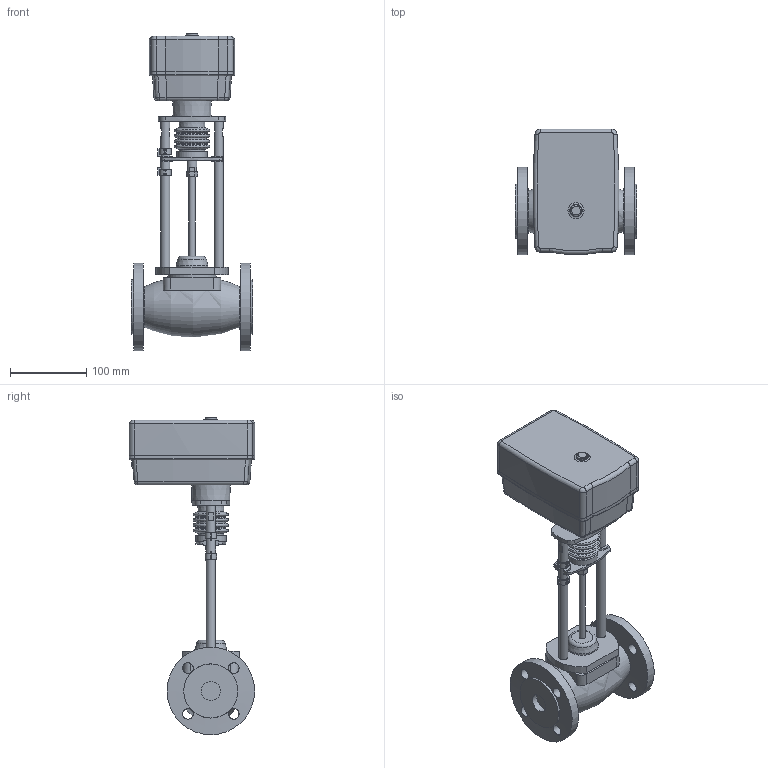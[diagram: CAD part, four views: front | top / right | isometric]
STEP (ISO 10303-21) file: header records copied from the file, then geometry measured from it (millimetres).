
FILE_DESCRIPTION(/* description */ ('Unknown'),/* implementation_level */ '2;1');
FILE_NAME(/* name */ 'Клапан TRV-P-025-101',/* time_stamp */ '2021-12-06T17:04:02+03:00',/* author */ ('Unknown'),/* organization */ ('Unknown'),/* preprocessor_version */ 'ST-DEVELOPER v16.7',/* originating_system */ 'DEX',/* authorisation */ $);
FILE_SCHEMA (('AUTOMOTIVE_DESIGN {1 0 10303 214 3 1 1}'));
Length unit declared in the file: millimetre
Products named in the file (1): 抔黽鳧 TRV-P-025-101
Bounding box: 160 x 164.51 x 416.9 mm (x, y, z)
Volume: 2538749.7 mm3; surface area: 211212.6 mm2
Topology: 1 solids, 1 shells, 322 faces, 843 edges, 533 vertices
Faces by surface type: plane 156, cylinder 79, torus 38, cone 26, bspline 19, sphere 4
Full cylindrical faces by diameter (mm): 8.2 x1, 12.002 x4, 13 x1, 14 x8, 15 x1, 24.8 x2, 33.4 x1, 33.972 x1, 40 x1, 42 x1, 64 x1, 71 x2, 115 x2
Entity records: 12208 total; most frequent: CARTESIAN_POINT 2497, DIRECTION 1551, ORIENTED_EDGE 1480, EDGE_CURVE 740, AXIS2_PLACEMENT_3D 604, VERTEX_POINT 491, EDGE_LOOP 417, FACE_BOUND 417
